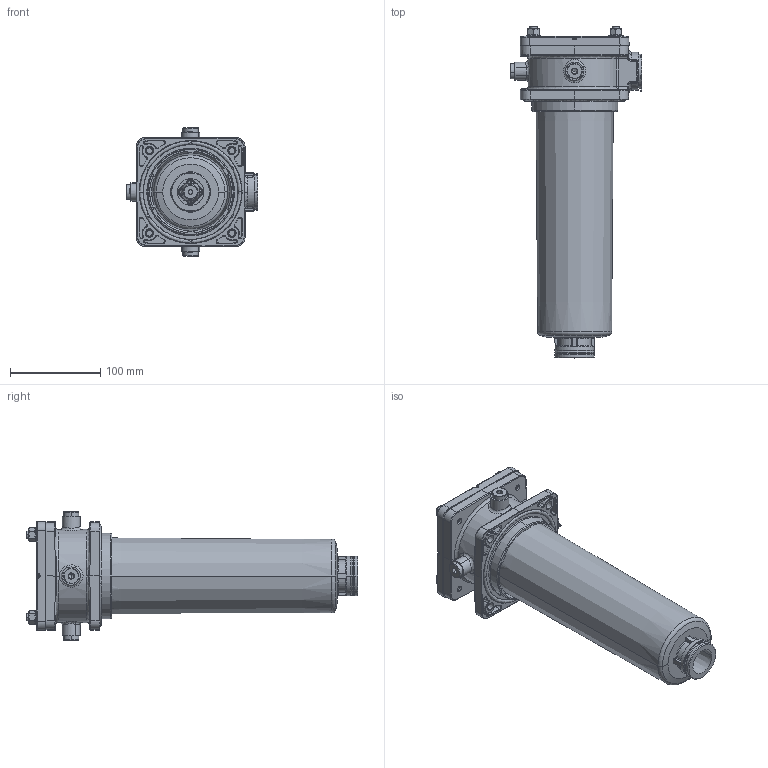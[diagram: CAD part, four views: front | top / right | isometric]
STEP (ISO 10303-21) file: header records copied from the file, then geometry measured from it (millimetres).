
FILE_DESCRIPTION((''),'2;1');
FILE_NAME('34377000_ASM','2024-09-30T09:40:36',('ka.jayakrishnan'),(''),'CREO PARAMETRIC BY PTC INC, 2023254','CREO PARAMETRIC BY PTC INC, 2023254','');
FILE_SCHEMA(('AUTOMOTIVE_DESIGN { 1 0 10303 214 1 1 1 1 }'));
Length unit declared in the file: millimetre
Products named in the file (13): 47003629; JCB_CAP; 47000791_ASM; 34381500; 34381600; 34381700; 34413800; O_RING_39; 28335400; 34380500; ISO_4032_M8; VSTI_12X1_5_ED_156254_PRT; 34377000_ASM
Assembly tree (24 placements, depth 3):
  34377000_ASM
    47003629
    47000791_ASM
      JCB_CAP
    34381500  x2
    34381600
    34381700
    34413800
    O_RING_39
    28335400  x4
    34380500  x4
    ISO_4032_M8  x4
    VSTI_12X1_5_ED_156254_PRT  x3
Bounding box: 145 x 367 x 142 mm (x, y, z)
Volume: 630723.9 mm3; surface area: 318610.3 mm2
Topology: 23 solids, 23 shells, 1548 faces, 3567 edges, 2100 vertices
Faces by surface type: cylinder 325, cone 312, plane 300, torus 282, bspline 274, sphere 43, revolution 12
Entity records: 63519 total; most frequent: CARTESIAN_POINT 24208, ORIENTED_EDGE 6262, DIRECTION 6000, PRESENTATION_STYLE_ASSIGNMENT 3142, STYLED_ITEM 3142, CURVE_STYLE 3131, EDGE_CURVE 3131, AXIS2_PLACEMENT_3D 2584
